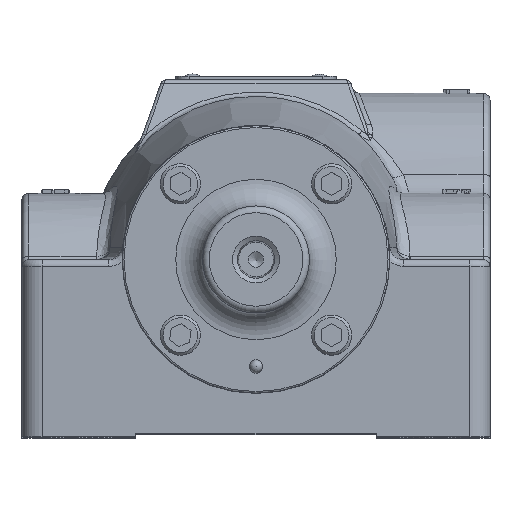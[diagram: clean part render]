
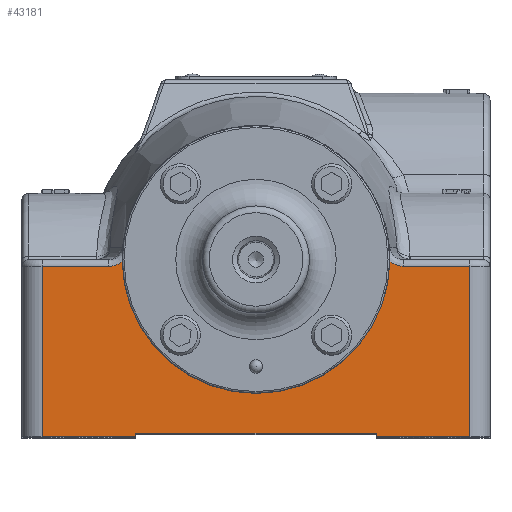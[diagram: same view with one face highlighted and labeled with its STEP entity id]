
A CAD part, top view. The second image highlights one B-rep face of the part: STEP entity #43181.
In plain terms, the highlighted planar face has unit normal (0, 0, 1).
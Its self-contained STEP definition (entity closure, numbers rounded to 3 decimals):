
#1020=B_SPLINE_CURVE_WITH_KNOTS('',3,(#71530,#71531,#71532,#71533),
 .UNSPECIFIED.,.F.,.F.,(4,4),(0.356,0.703),
 .UNSPECIFIED.);
#1021=B_SPLINE_CURVE_WITH_KNOTS('',3,(#71537,#71538,#71539,#71540,#71541),
 .UNSPECIFIED.,.F.,.F.,(4,1,4),(0.,0.291,0.347),
 .UNSPECIFIED.);
#3153=PLANE('',#47086);
#4779=FACE_OUTER_BOUND('',#7486,.T.);
#7486=EDGE_LOOP('',(#33028,#33029,#33030,#33031,#33032,#33033,#33034,#33035,
#33036,#33037,#33038,#33039));
#10094=CIRCLE('',#47087,3.178);
#12838=LINE('',#71524,#15348);
#12839=LINE('',#71526,#15349);
#12840=LINE('',#71528,#15350);
#12841=LINE('',#71543,#15351);
#12842=LINE('',#71545,#15352);
#12843=LINE('',#71547,#15353);
#12844=LINE('',#71549,#15354);
#12845=LINE('',#71551,#15355);
#12846=LINE('',#71552,#15356);
#15348=VECTOR('',#56061,1.);
#15349=VECTOR('',#56062,1.);
#15350=VECTOR('',#56063,1.);
#15351=VECTOR('',#56066,1.);
#15352=VECTOR('',#56067,1.);
#15353=VECTOR('',#56068,1.);
#15354=VECTOR('',#56069,1.);
#15355=VECTOR('',#56070,1.);
#15356=VECTOR('',#56071,1.);
#18382=VERTEX_POINT('',#71522);
#18383=VERTEX_POINT('',#71523);
#18384=VERTEX_POINT('',#71525);
#18385=VERTEX_POINT('',#71527);
#18386=VERTEX_POINT('',#71529);
#18387=VERTEX_POINT('',#71534);
#18388=VERTEX_POINT('',#71536);
#18389=VERTEX_POINT('',#71542);
#18390=VERTEX_POINT('',#71544);
#18391=VERTEX_POINT('',#71546);
#18392=VERTEX_POINT('',#71548);
#18393=VERTEX_POINT('',#71550);
#23484=EDGE_CURVE('',#18382,#18383,#12838,.T.);
#23485=EDGE_CURVE('',#18384,#18383,#12839,.T.);
#23486=EDGE_CURVE('',#18385,#18384,#12840,.T.);
#23487=EDGE_CURVE('',#18386,#18385,#1020,.T.);
#23488=EDGE_CURVE('',#18387,#18386,#10094,.T.);
#23489=EDGE_CURVE('',#18388,#18387,#1021,.T.);
#23490=EDGE_CURVE('',#18389,#18388,#12841,.T.);
#23491=EDGE_CURVE('',#18390,#18389,#12842,.T.);
#23492=EDGE_CURVE('',#18390,#18391,#12843,.T.);
#23493=EDGE_CURVE('',#18391,#18392,#12844,.T.);
#23494=EDGE_CURVE('',#18392,#18393,#12845,.T.);
#23495=EDGE_CURVE('',#18393,#18382,#12846,.T.);
#33028=ORIENTED_EDGE('',*,*,#23484,.T.);
#33029=ORIENTED_EDGE('',*,*,#23485,.F.);
#33030=ORIENTED_EDGE('',*,*,#23486,.F.);
#33031=ORIENTED_EDGE('',*,*,#23487,.F.);
#33032=ORIENTED_EDGE('',*,*,#23488,.F.);
#33033=ORIENTED_EDGE('',*,*,#23489,.F.);
#33034=ORIENTED_EDGE('',*,*,#23490,.F.);
#33035=ORIENTED_EDGE('',*,*,#23491,.F.);
#33036=ORIENTED_EDGE('',*,*,#23492,.T.);
#33037=ORIENTED_EDGE('',*,*,#23493,.T.);
#33038=ORIENTED_EDGE('',*,*,#23494,.T.);
#33039=ORIENTED_EDGE('',*,*,#23495,.T.);
#43181=ADVANCED_FACE('',(#4779),#3153,.T.);
#47086=AXIS2_PLACEMENT_3D('',#71521,#56059,#56060);
#47087=AXIS2_PLACEMENT_3D('',#71535,#56064,#56065);
#56059=DIRECTION('center_axis',(0.,0.,1.));
#56060=DIRECTION('ref_axis',(1.,0.,0.));
#56061=DIRECTION('',(1.,0.,0.));
#56062=DIRECTION('',(0.,-1.,0.));
#56063=DIRECTION('',(1.,0.,0.));
#56064=DIRECTION('center_axis',(0.,0.,1.));
#56065=DIRECTION('ref_axis',(-1.,0.,0.));
#56066=DIRECTION('',(1.,0.,0.));
#56067=DIRECTION('',(0.,1.,0.));
#56068=DIRECTION('',(1.,0.,0.));
#56069=DIRECTION('',(0.,1.,0.));
#56070=DIRECTION('',(1.,0.,0.));
#56071=DIRECTION('',(0.,-1.,0.));
#71521=CARTESIAN_POINT('Origin',(0.,-4.286,8.652));
#71522=CARTESIAN_POINT('',(2.858,-4.207,8.652));
#71523=CARTESIAN_POINT('',(5.08,-4.207,8.652));
#71524=CARTESIAN_POINT('',(0.,-4.207,8.652));
#71525=CARTESIAN_POINT('',(5.08,-0.159,8.652));
#71526=CARTESIAN_POINT('',(5.08,-3.215,8.652));
#71527=CARTESIAN_POINT('',(3.497,-0.159,8.652));
#71528=CARTESIAN_POINT('',(0.,-0.159,8.652));
#71529=CARTESIAN_POINT('',(3.177,-0.037,8.652));
#71530=CARTESIAN_POINT('Ctrl Pts',(3.178,-0.037,
8.652));
#71531=CARTESIAN_POINT('Ctrl Pts',(3.265,-0.114,
8.652));
#71532=CARTESIAN_POINT('Ctrl Pts',(3.381,-0.159,
8.652));
#71533=CARTESIAN_POINT('Ctrl Pts',(3.497,-0.159,
8.652));
#71534=CARTESIAN_POINT('',(-3.177,-0.037,8.652));
#71535=CARTESIAN_POINT('Origin',(0.,0.,8.652));
#71536=CARTESIAN_POINT('',(-3.497,-0.159,8.652));
#71537=CARTESIAN_POINT('Ctrl Pts',(-3.497,-0.159,
8.652));
#71538=CARTESIAN_POINT('Ctrl Pts',(-3.4,-0.159,
8.652));
#71539=CARTESIAN_POINT('Ctrl Pts',(-3.283,-0.122,
8.652));
#71540=CARTESIAN_POINT('Ctrl Pts',(-3.192,-0.05,
8.652));
#71541=CARTESIAN_POINT('Ctrl Pts',(-3.178,-0.037,
8.652));
#71542=CARTESIAN_POINT('',(-5.08,-0.159,8.652));
#71543=CARTESIAN_POINT('',(0.,-0.159,8.652));
#71544=CARTESIAN_POINT('',(-5.08,-4.207,8.652));
#71545=CARTESIAN_POINT('',(-5.08,-3.215,8.652));
#71546=CARTESIAN_POINT('',(-2.858,-4.207,8.652));
#71547=CARTESIAN_POINT('',(0.,-4.207,8.652));
#71548=CARTESIAN_POINT('',(-2.858,-4.128,8.652));
#71549=CARTESIAN_POINT('',(-2.858,-4.247,8.652));
#71550=CARTESIAN_POINT('',(2.858,-4.128,8.652));
#71551=CARTESIAN_POINT('',(0.,-4.128,8.652));
#71552=CARTESIAN_POINT('',(2.858,-4.247,8.652));
